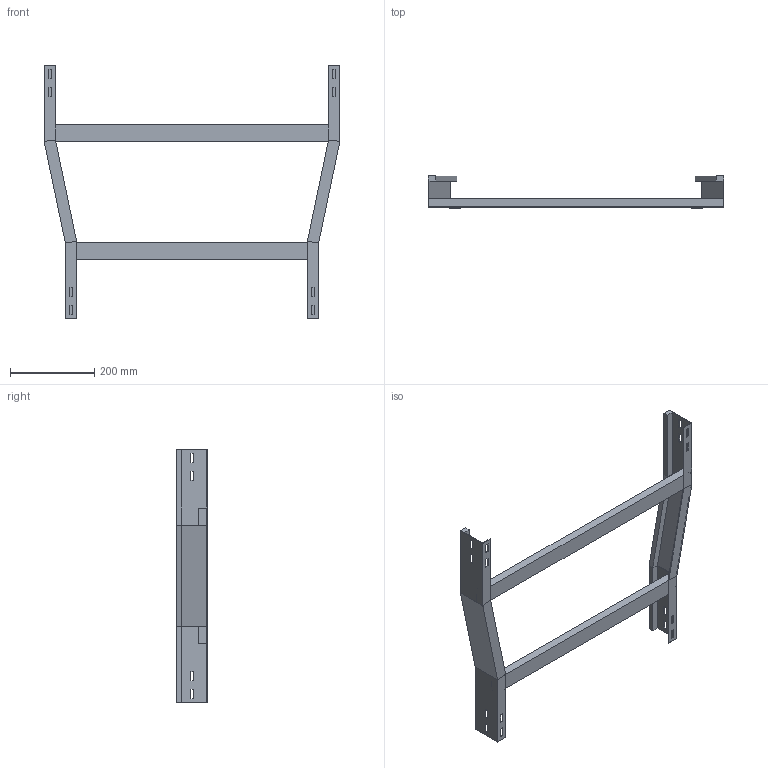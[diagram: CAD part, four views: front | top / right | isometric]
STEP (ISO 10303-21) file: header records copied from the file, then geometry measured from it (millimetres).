
FILE_DESCRIPTION (( 'STEP AP214' ), '1' );
FILE_NAME ('B2X20B6C700XX.step', '2025-09-02T17:15:01', ( '' ), ( '' ), 'SwSTEP 2.0', 'SolidWorks 2023', '' );
FILE_SCHEMA (( 'AUTOMOTIVE_DESIGN' ));
Length unit declared in the file: millimetre
Products named in the file (4): TRAVERSINO_600; TRAVERSINO_700; B2X20B6C700XX; SPONDA RID. CENTRALE 700-600_H75
Assembly tree (3 placements, depth 2):
  B2X20B6C700XX
    SPONDA RID. CENTRALE 700-600_H75
    TRAVERSINO_600
    TRAVERSINO_700
Bounding box: 700 x 75 x 600 mm (x, y, z)
Volume: 1516032 mm3; surface area: 443700.2 mm2
Topology: 4 solids, 4 shells, 128 faces, 328 edges, 208 vertices
Faces by surface type: plane 128
Entity records: 3950 total; most frequent: CARTESIAN_POINT 670, ORIENTED_EDGE 656, DIRECTION 596, LINE 328, EDGE_CURVE 328, VECTOR 328, VERTEX_POINT 208, EDGE_LOOP 160
